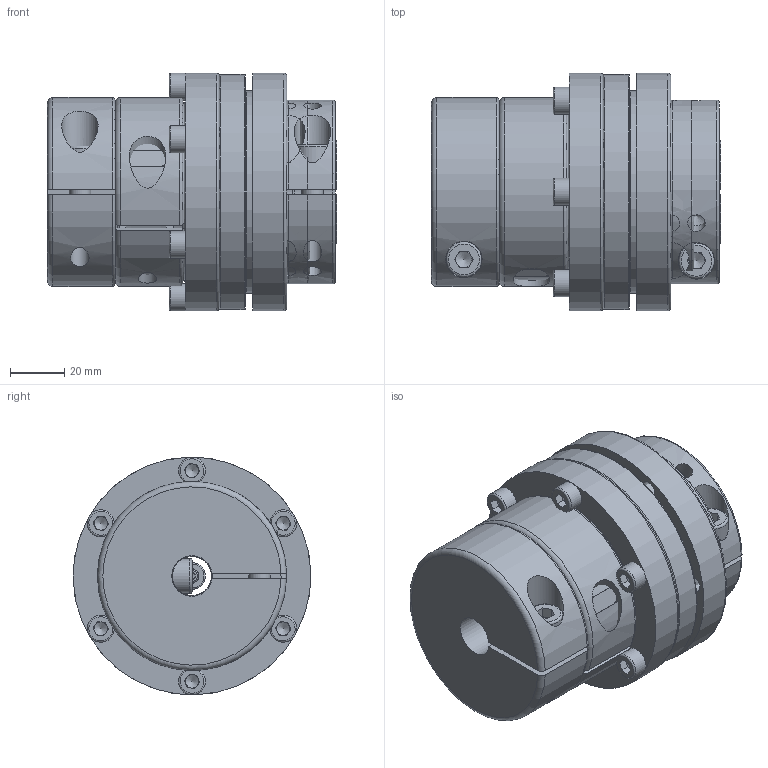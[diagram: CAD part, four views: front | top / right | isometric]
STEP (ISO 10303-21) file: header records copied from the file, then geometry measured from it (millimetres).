
FILE_DESCRIPTION( ( 'Unknown' ), '1' );
FILE_NAME( 'F:/JAKOB-STEP+IGES-Dateien/STEP-Dateien/SKB-EK/SKB-EK 100.stp', 'Unknown', ( 'Unknown' ), ( 'Unknown' ), 'XStep 1.0', 'Unknown', ' ' );
FILE_SCHEMA( ( 'CONFIG_CONTROL_DESIGN' ) );
Length unit declared in the file: millimetre
Products named in the file (11): SKB 100; Assem1; 23917262; KT102264; KT100967; KT101716; KT100051; Elastomerteil 3; kt101732
Bounding box: 107 x 88 x 88 mm (x, y, z)
Surface area: 289736.7 mm2
Topology: 29 solids, 29 shells, 1297 faces, 3627 edges, 2317 vertices
Faces by surface type: plane 450, cylinder 434, cone 200, torus 168, sphere 45
Full cylindrical faces by diameter (mm): 2 x6, 4.2 x3, 5 x37, 6 x7, 6.4 x12, 6.5 x9, 6.8 x5, 8 x5, 8.5 x3, 8.6 x2, 10 x7, 13 x5, 13.5 x5, 14.5 x2, 17 x3, 30 x4, 40.5 x2, 42.5 x3, 44.8 x3, 45 x6, 46 x3, 49 x3, 52.3 x6, 60.8 x6, 65 x2, 68 x8, 72 x6, 74 x3, 74.8 x3, 83 x3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
Entity records: 18026 total; most frequent: CARTESIAN_POINT 5552, DIRECTION 2506, ORIENTED_EDGE 2420, EDGE_CURVE 1210, AXIS2_PLACEMENT_3D 1077, VERTEX_POINT 829, EDGE_LOOP 680, CIRCLE 570
